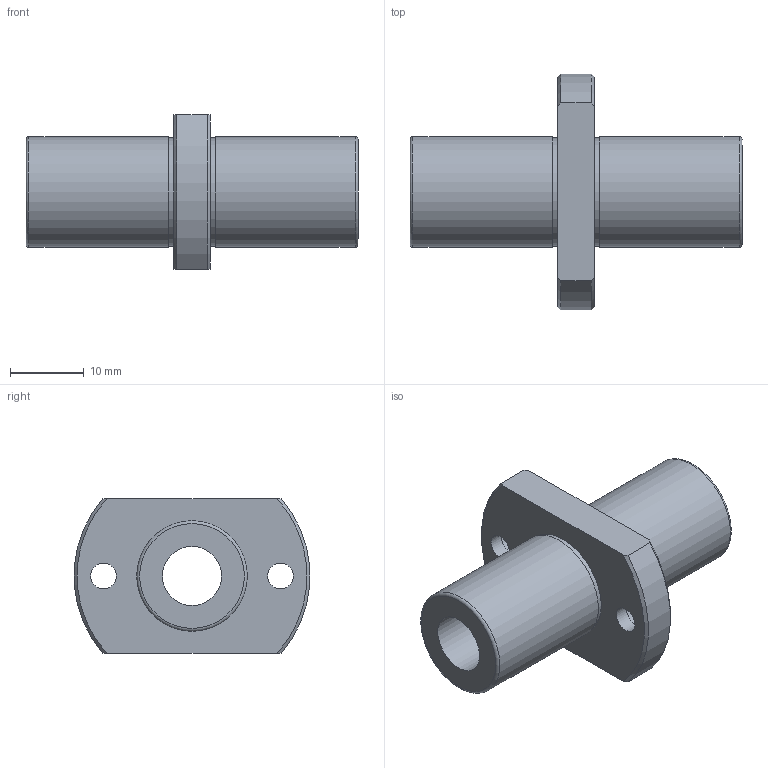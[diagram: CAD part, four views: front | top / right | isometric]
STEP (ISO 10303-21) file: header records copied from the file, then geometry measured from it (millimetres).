
FILE_DESCRIPTION(('STEP AP203'),'1');
FILE_NAME('//192.168.1.1/share/s-4 技術開発/s-4-4_CAD/s-4-4-3_見直し済み/002 修正済み/NFCO-VL/NFCO-VL_TOP/NFCO-8VLUU.step','2022-03-08T05:35:56',(' '),(' '),'Spatial InterOp 3D',' ',' ');
FILE_SCHEMA(('CONFIG_CONTROL_DESIGN'));
Length unit declared in the file: millimetre
Products named in the file (1): 1
Bounding box: 45 x 31.9 x 21 mm (x, y, z)
Volume: 7674.6 mm3; surface area: 4734.2 mm2
Topology: 1 solids, 1 shells, 27 faces, 61 edges, 42 vertices
Faces by surface type: cylinder 11, plane 10, cone 4, torus 2
Full cylindrical faces by diameter (mm): 3.5 x2, 6 x2, 8 x1, 14.7 x2, 15 x2
Entity records: 730 total; most frequent: CARTESIAN_POINT 132, DIRECTION 120, ORIENTED_EDGE 88, AXIS2_PLACEMENT_3D 56, EDGE_LOOP 50, EDGE_CURVE 44, FACE_OUTER_BOUND 38, VERTEX_POINT 36
